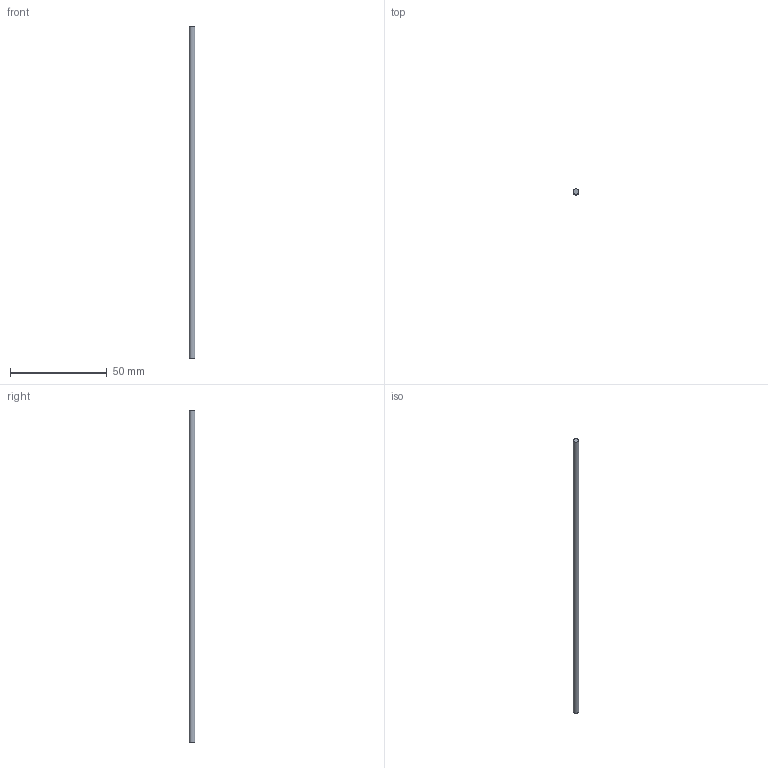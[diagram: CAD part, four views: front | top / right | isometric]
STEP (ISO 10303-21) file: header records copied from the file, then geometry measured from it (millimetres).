
FILE_DESCRIPTION(('Open CASCADE Model'),'2;1');
FILE_NAME('Open CASCADE Shape Model','2026-10-15T15:10:05',('Author'),( 'Open CASCADE'),'Open CASCADE STEP processor 8.0','Open CASCADE 8.0' ,'Unknown');
FILE_SCHEMA(('AUTOMOTIVE_DESIGN { 1 0 10303 214 1 1 1 1 }'));
Length unit declared in the file: millimetre
Products named in the file (1): TC18_CABLE_CAUTIVO_D3_SEG2_REF 150
Bounding box: 3 x 3 x 171.54 mm (x, y, z)
Volume: 1212.5 mm3; surface area: 1630.8 mm2
Topology: 1 solids, 1 shells, 3 faces, 3 edges, 2 vertices
Faces by surface type: plane 2, cylinder 1
Full cylindrical faces by diameter (mm): 3 x1
Entity records: 108 total; most frequent: DIRECTION 19, CARTESIAN_POINT 15, AXIS2_PLACEMENT_3D 6, ORIENTED_EDGE 6, PCURVE 6, DEFINITIONAL_REPRESENTATION 6, LINE 5, VECTOR 5
